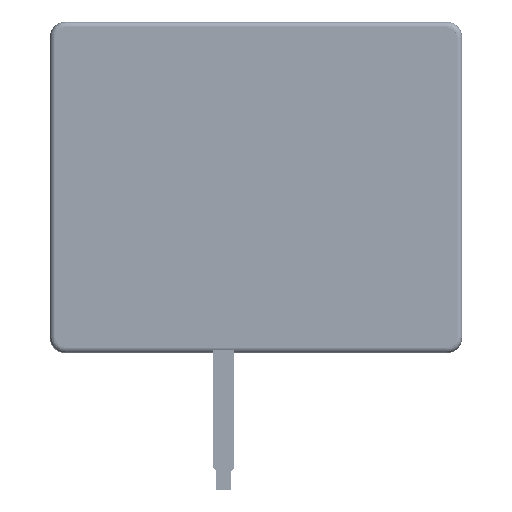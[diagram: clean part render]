
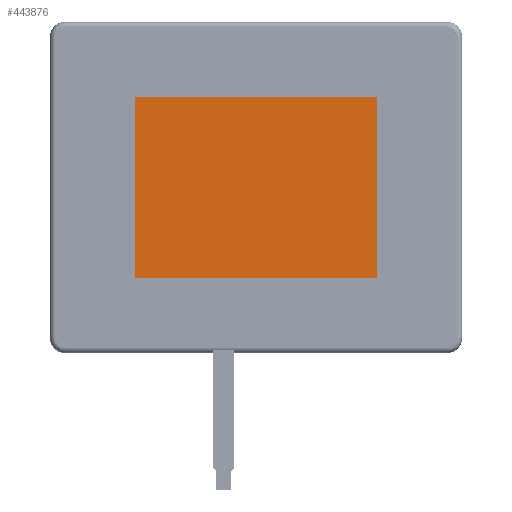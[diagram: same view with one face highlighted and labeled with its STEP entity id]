
A CAD part, top view. The second image highlights one B-rep face of the part: STEP entity #443876.
In plain terms, the highlighted planar face has unit normal (0, 0, 1).
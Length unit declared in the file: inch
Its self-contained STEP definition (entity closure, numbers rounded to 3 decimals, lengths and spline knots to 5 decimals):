
#2599 = LINE ( 'NONE', #341986, #157688 ) ;
#3131 = EDGE_CURVE ( 'NONE', #129141, #450836, #70893, .T. ) ;
#3610 = CARTESIAN_POINT ( 'NONE',  ( -3.18799, 2.39055, -0.00004 ) ) ;
#14578 = CARTESIAN_POINT ( 'NONE',  ( 3.18799, -2.39055, -0.00004 ) ) ;
#29067 = DIRECTION ( 'NONE',  ( 0., -1., 0. ) ) ;
#60785 = EDGE_CURVE ( 'NONE', #396378, #129141, #141568, .T. ) ;
#61740 = VECTOR ( 'NONE', #29067, 39.37008 ) ;
#63495 = AXIS2_PLACEMENT_3D ( 'NONE', #233408, #497335, #453793 ) ;
#70893 = LINE ( 'NONE', #175233, #246270 ) ;
#88225 = EDGE_CURVE ( 'NONE', #450836, #152158, #277744, .T. ) ;
#100379 = ORIENTED_EDGE ( 'NONE', *, *, #3131, .T. ) ;
#129141 = VERTEX_POINT ( 'NONE', #303485 ) ;
#141568 = LINE ( 'NONE', #14578, #431655 ) ;
#146262 = DIRECTION ( 'NONE',  ( 0., 1., 0. ) ) ;
#152158 = VERTEX_POINT ( 'NONE', #293017 ) ;
#157688 = VECTOR ( 'NONE', #300448, 39.37008 ) ;
#175233 = CARTESIAN_POINT ( 'NONE',  ( 3.18799, 2.39055, -0.00004 ) ) ;
#190030 = PLANE ( 'NONE',  #63495 ) ;
#200721 = CARTESIAN_POINT ( 'NONE',  ( -3.18799, 2.39055, -0.00004 ) ) ;
#208943 = EDGE_LOOP ( 'NONE', ( #350824, #100379, #365926, #388396 ) ) ;
#216836 = DIRECTION ( 'NONE',  ( -1., 0., 0. ) ) ;
#233408 = CARTESIAN_POINT ( 'NONE',  ( 0., 0., -0.00004 ) ) ;
#246270 = VECTOR ( 'NONE', #216836, 39.37008 ) ;
#277744 = LINE ( 'NONE', #200721, #61740 ) ;
#293017 = CARTESIAN_POINT ( 'NONE',  ( -3.18799, -2.39055, -0.00004 ) ) ;
#300448 = DIRECTION ( 'NONE',  ( 1., 0., 0. ) ) ;
#303485 = CARTESIAN_POINT ( 'NONE',  ( 3.18799, 2.39055, -0.00004 ) ) ;
#338333 = EDGE_CURVE ( 'NONE', #152158, #396378, #2599, .T. ) ;
#341986 = CARTESIAN_POINT ( 'NONE',  ( -3.18799, -2.39055, -0.00004 ) ) ;
#350824 = ORIENTED_EDGE ( 'NONE', *, *, #60785, .T. ) ;
#365926 = ORIENTED_EDGE ( 'NONE', *, *, #88225, .T. ) ;
#388396 = ORIENTED_EDGE ( 'NONE', *, *, #338333, .T. ) ;
#396378 = VERTEX_POINT ( 'NONE', #542605 ) ;
#431655 = VECTOR ( 'NONE', #146262, 39.37008 ) ;
#443876 = ADVANCED_FACE ( 'NONE', ( #494042 ), #190030, .T. ) ;
#450836 = VERTEX_POINT ( 'NONE', #3610 ) ;
#453793 = DIRECTION ( 'NONE',  ( 1., 0., 0. ) ) ;
#494042 = FACE_OUTER_BOUND ( 'NONE', #208943, .T. ) ;
#497335 = DIRECTION ( 'NONE',  ( 0., 0., 1. ) ) ;
#542605 = CARTESIAN_POINT ( 'NONE',  ( 3.18799, -2.39055, -0.00004 ) ) ;
